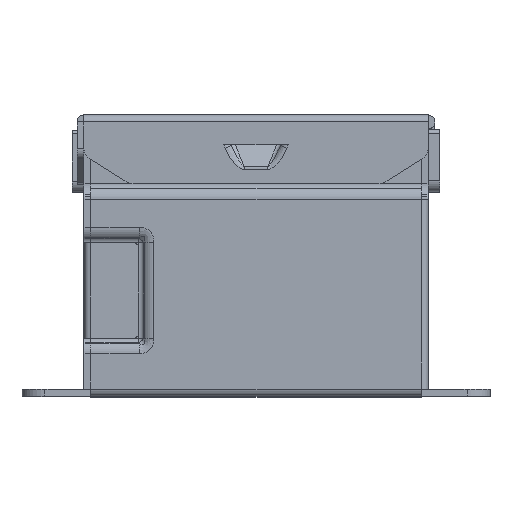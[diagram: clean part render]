
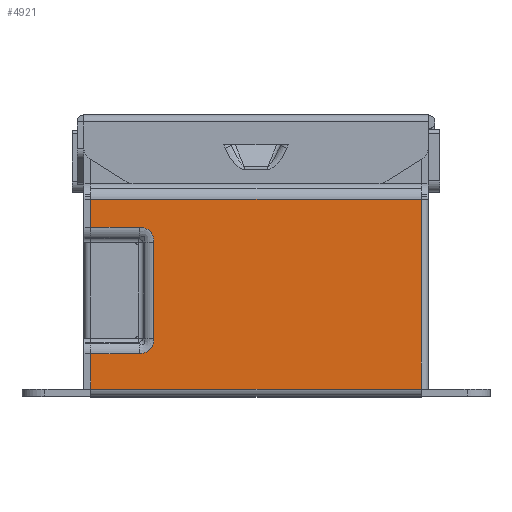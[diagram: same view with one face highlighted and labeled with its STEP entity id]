
A CAD part, top view. The second image highlights one B-rep face of the part: STEP entity #4921.
In plain terms, the highlighted planar face has unit normal (0, 0, 1).
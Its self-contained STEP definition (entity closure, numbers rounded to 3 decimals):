
#1070=DIRECTION('',(0.,-1.,0.));
#1071=VECTOR('',#1070,16.558);
#1072=CARTESIAN_POINT('',(14.4,17.158,25.));
#1073=LINE('',#1072,#1071);
#1087=DIRECTION('',(1.,0.,0.));
#1088=VECTOR('',#1087,28.8);
#1089=CARTESIAN_POINT('',(-14.4,0.6,25.));
#1090=LINE('',#1089,#1088);
#1105=DIRECTION('',(-1.,0.,0.));
#1106=VECTOR('',#1105,28.8);
#1107=CARTESIAN_POINT('',(14.4,17.158,25.));
#1108=LINE('',#1107,#1106);
#1109=DIRECTION('',(0.,-1.,0.));
#1110=VECTOR('',#1109,3.103);
#1111=CARTESIAN_POINT('',(-14.4,3.703,25.));
#1112=LINE('',#1111,#1110);
#1113=DIRECTION('',(-1.,0.,0.));
#1114=VECTOR('',#1113,4.224);
#1115=CARTESIAN_POINT('',(-10.176,3.703,25.));
#1116=LINE('',#1115,#1114);
#1117=CARTESIAN_POINT('',(-8.903,4.976,25.));
#1118=CARTESIAN_POINT('',(-8.903,4.821,25.));
#1119=CARTESIAN_POINT('',(-8.939,4.538,25.));
#1120=CARTESIAN_POINT('',(-9.105,4.178,25.));
#1121=CARTESIAN_POINT('',(-9.359,3.917,25.));
#1122=CARTESIAN_POINT('',(-9.726,3.741,25.));
#1123=CARTESIAN_POINT('',(-10.017,3.703,25.));
#1124=CARTESIAN_POINT('',(-10.176,3.703,25.));
#1126=DIRECTION('',(0.,-1.,0.));
#1127=VECTOR('',#1126,8.449);
#1128=CARTESIAN_POINT('',(-8.903,13.424,25.));
#1129=LINE('',#1128,#1127);
#1130=CARTESIAN_POINT('',(-10.176,14.697,25.));
#1131=CARTESIAN_POINT('',(-10.021,14.697,25.));
#1132=CARTESIAN_POINT('',(-9.738,14.661,25.));
#1133=CARTESIAN_POINT('',(-9.378,14.495,25.));
#1134=CARTESIAN_POINT('',(-9.117,14.241,25.));
#1135=CARTESIAN_POINT('',(-8.941,13.874,25.));
#1136=CARTESIAN_POINT('',(-8.903,13.583,25.));
#1137=CARTESIAN_POINT('',(-8.903,13.424,25.));
#1139=DIRECTION('',(1.,0.,0.));
#1140=VECTOR('',#1139,4.224);
#1141=CARTESIAN_POINT('',(-14.4,14.697,25.));
#1142=LINE('',#1141,#1140);
#1143=DIRECTION('',(0.,-1.,0.));
#1144=VECTOR('',#1143,2.461);
#1145=CARTESIAN_POINT('',(-14.4,17.158,25.));
#1146=LINE('',#1145,#1144);
#3135=CARTESIAN_POINT('',(-14.4,0.6,25.));
#3136=CARTESIAN_POINT('',(14.4,0.6,25.));
#3137=VERTEX_POINT('',#3135);
#3138=VERTEX_POINT('',#3136);
#3375=CARTESIAN_POINT('',(14.4,17.158,25.));
#3376=VERTEX_POINT('',#3375);
#3377=CARTESIAN_POINT('',(-14.4,17.158,25.));
#3378=VERTEX_POINT('',#3377);
#3463=CARTESIAN_POINT('',(-14.4,14.697,25.));
#3464=CARTESIAN_POINT('',(-10.176,14.697,25.));
#3465=VERTEX_POINT('',#3463);
#3466=VERTEX_POINT('',#3464);
#3469=CARTESIAN_POINT('',(-8.903,13.424,25.));
#3470=CARTESIAN_POINT('',(-8.903,4.976,25.));
#3471=VERTEX_POINT('',#3469);
#3472=VERTEX_POINT('',#3470);
#3475=CARTESIAN_POINT('',(-10.176,3.703,25.));
#3476=CARTESIAN_POINT('',(-14.4,3.703,25.));
#3477=VERTEX_POINT('',#3475);
#3478=VERTEX_POINT('',#3476);
#4896=CARTESIAN_POINT('',(14.4,0.,25.));
#4897=DIRECTION('',(0.,0.,1.));
#4898=DIRECTION('',(1.,0.,0.));
#4899=AXIS2_PLACEMENT_3D('',#4896,#4897,#4898);
#4900=PLANE('',#4899);
#4902=ORIENTED_EDGE('',*,*,#4901,.F.);
#4903=ORIENTED_EDGE('',*,*,#4852,.T.);
#4904=ORIENTED_EDGE('',*,*,#4887,.F.);
#4906=ORIENTED_EDGE('',*,*,#4905,.F.);
#4908=ORIENTED_EDGE('',*,*,#4907,.F.);
#4910=ORIENTED_EDGE('',*,*,#4909,.F.);
#4912=ORIENTED_EDGE('',*,*,#4911,.F.);
#4914=ORIENTED_EDGE('',*,*,#4913,.F.);
#4916=ORIENTED_EDGE('',*,*,#4915,.F.);
#4918=ORIENTED_EDGE('',*,*,#4917,.F.);
#4919=EDGE_LOOP('',(#4902,#4903,#4904,#4906,#4908,#4910,#4912,#4914,#4916,
#4918));
#4920=FACE_OUTER_BOUND('',#4919,.F.);
#4921=ADVANCED_FACE('',(#4920),#4900,.T.);
#1125=B_SPLINE_CURVE_WITH_KNOTS('',3,(#1117,#1118,#1119,#1120,#1121,#1122,#1123,
#1124),.UNSPECIFIED.,.F.,.F.,(4,1,1,1,1,4),(0.,0.2,0.4,0.6,0.8,1.),
.UNSPECIFIED.);
#1138=B_SPLINE_CURVE_WITH_KNOTS('',3,(#1130,#1131,#1132,#1133,#1134,#1135,#1136,
#1137),.UNSPECIFIED.,.F.,.F.,(4,1,1,1,1,4),(0.,0.2,0.4,0.6,0.8,1.),
.UNSPECIFIED.);
#4852=EDGE_CURVE('',#3376,#3138,#1073,.T.);
#4887=EDGE_CURVE('',#3137,#3138,#1090,.T.);
#4901=EDGE_CURVE('',#3376,#3378,#1108,.T.);
#4905=EDGE_CURVE('',#3478,#3137,#1112,.T.);
#4907=EDGE_CURVE('',#3477,#3478,#1116,.T.);
#4909=EDGE_CURVE('',#3472,#3477,#1125,.T.);
#4911=EDGE_CURVE('',#3471,#3472,#1129,.T.);
#4913=EDGE_CURVE('',#3466,#3471,#1138,.T.);
#4915=EDGE_CURVE('',#3465,#3466,#1142,.T.);
#4917=EDGE_CURVE('',#3378,#3465,#1146,.T.);
